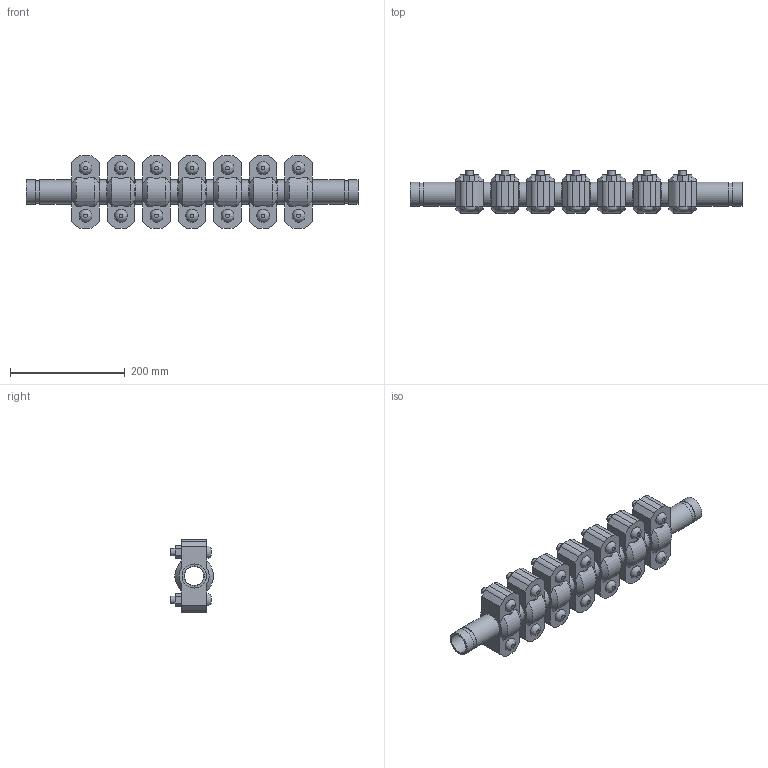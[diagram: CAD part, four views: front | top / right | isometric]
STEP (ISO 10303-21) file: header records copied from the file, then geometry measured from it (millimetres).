
FILE_DESCRIPTION(/* description */ ('VIC EXPANSION JOINT 7 COUPLINGS EXPANDED STYLE 155 (OGS)','CAx-IF Rec.Pracs.---Representation and Presentation of Product Manufacturing Information (PMI)---4.0---2014-10-13'),/* implementation_level */ '2;1');
FILE_NAME(/* name */ 'C:\Users\kkamble\AppData\Roaming\Autodesk\ApplicationPlugins\Victaulic.Temp\A179\Victaulic_IPS_Expansion Joint_Expanded_7 Couplings_Style 155 (OGS)_1.25 (32).stp',/* time_stamp */ '2021-06-27T00:06:25+02:00',/* author */ ('kkamble'),/* organization */ ('Victaulic'),/* preprocessor_version */ 'ST-DEVELOPER v17.2',/* originating_system */ 'Autodesk Inventor 2019',/* authorisation */ '');
FILE_SCHEMA (('AP242_MANAGED_MODEL_BASED_3D_ENGINEERING_MIM_LF { 1 0 10303 442 1 1 4 }'));
Length unit declared in the file: inch
Products named in the file (4): 155-01.25; Nipple-01.25; Nipple-01.25_1; 077-01.25
Assembly tree (15 placements, depth 2):
  155-01.25
    Nipple-01.25  x2
    Nipple-01.25_1  x6
    077-01.25  x7
Bounding box: 579.37 x 74.93 x 127 mm (x, y, z)
Volume: 1837139.2 mm3; surface area: 443998.1 mm2
Topology: 15 solids, 29 shells, 523 faces, 1255 edges, 878 vertices
Faces by surface type: plane 300, cylinder 181, cone 28, bspline 14
Full cylindrical faces by diameter (mm): 12.7 x28, 14.605 x14, 33.274 x7, 35.052 x8, 38.989 x16, 42.164 x38
Entity records: 3001 total; most frequent: CARTESIAN_POINT 559, DIRECTION 493, ORIENTED_EDGE 410, EDGE_CURVE 205, AXIS2_PLACEMENT_3D 198, VERTEX_POINT 146, EDGE_LOOP 111, LINE 97
